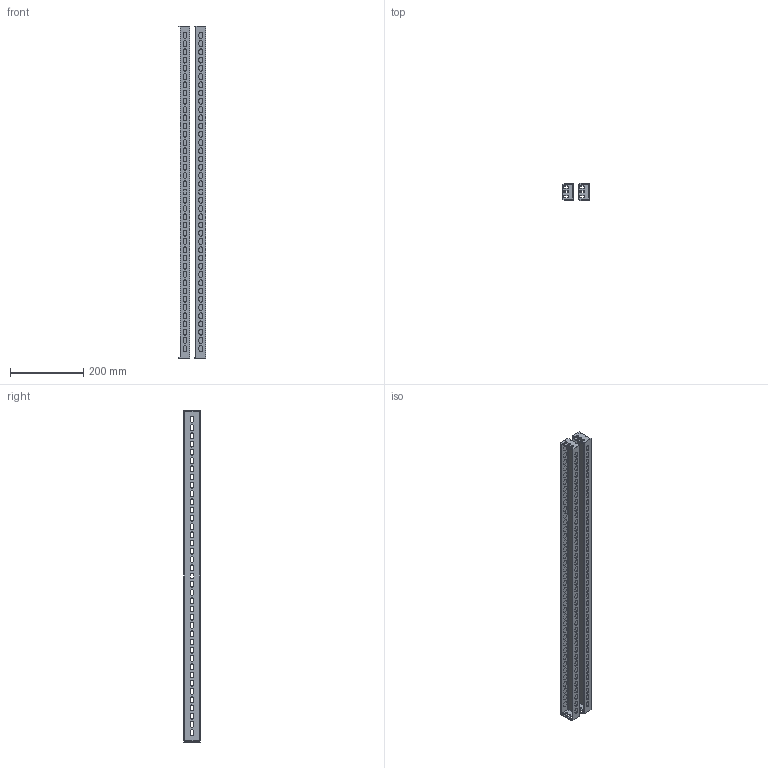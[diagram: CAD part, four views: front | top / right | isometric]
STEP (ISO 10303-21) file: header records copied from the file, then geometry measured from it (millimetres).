
FILE_DESCRIPTION (( 'STEP AP214' ), '1' );
FILE_NAME ('FO-00-RIZB-100 Ðåéêà èçîëÿòîðîâ òèï B 1000ìì (2øò. êîìïë).STEP', '2025-08-14T07:32:44', ( '' ), ( '' ), 'SwSTEP 2.0', 'SolidWorks 2023', '' );
FILE_SCHEMA (( 'AUTOMOTIVE_DESIGN' ));
Length unit declared in the file: millimetre
Products named in the file (2): FO-00-RIZB-100 Рейка изоляторов тип B 1000мм (2шт. компл); Рейка изоляторов тип B 1000
Assembly tree (2 placements, depth 2):
  FO-00-RIZB-100 Рейка изоляторов тип B 1000мм (2шт. компл)
    Рейка изоляторов тип B 1000  x2
Bounding box: 75.3 x 46 x 906 mm (x, y, z)
Volume: 376530.5 mm3; surface area: 367070.9 mm2
Topology: 2 solids, 2 shells, 1286 faces, 3362 edges, 2236 vertices
Faces by surface type: plane 704, cylinder 582
Entity records: 20136 total; most frequent: DIRECTION 3559, CARTESIAN_POINT 3447, ORIENTED_EDGE 3362, EDGE_CURVE 1681, AXIS2_PLACEMENT_3D 1230, VERTEX_POINT 1118, LINE 1099, VECTOR 1099
